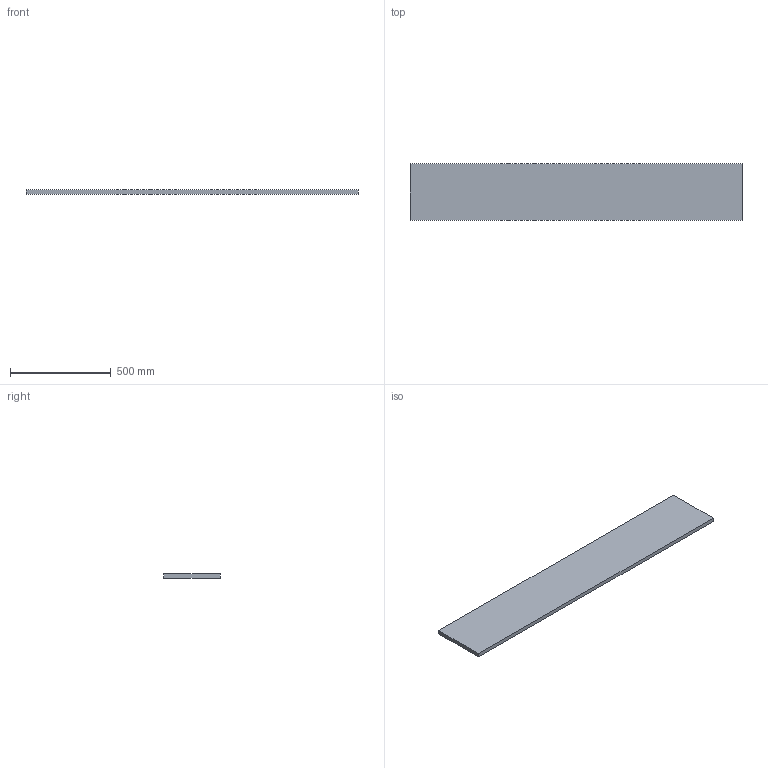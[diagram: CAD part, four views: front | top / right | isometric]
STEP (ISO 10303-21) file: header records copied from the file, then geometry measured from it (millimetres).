
FILE_DESCRIPTION(('FreeCAD Model'),'2;1');
FILE_NAME('Open CASCADE Shape Model','2026-07-29T15:08:31',('FreeCAD'),( 'FreeCAD'),'Open CASCADE STEP processor 7.8','FreeCAD','Unknown');
FILE_SCHEMA(('AUTOMOTIVE_DESIGN { 1 0 10303 214 1 1 1 1 }'));
Length unit declared in the file: millimetre
Products named in the file (1): Open CASCADE STEP translator 7.8 2
Bounding box: 1650 x 280 x 20 mm (x, y, z)
Volume: 9240000 mm3; surface area: 1001200 mm2
Topology: 1 solids, 1 shells, 6 faces, 12 edges, 8 vertices
Faces by surface type: plane 6
Entity records: 166 total; most frequent: CARTESIAN_POINT 27, DIRECTION 26, ORIENTED_EDGE 24, EDGE_CURVE 12, LINE 12, VECTOR 12, VERTEX_POINT 8, AXIS2_PLACEMENT_3D 7
